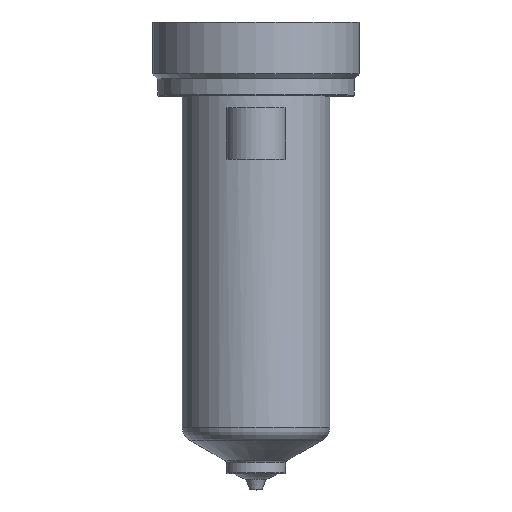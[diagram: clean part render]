
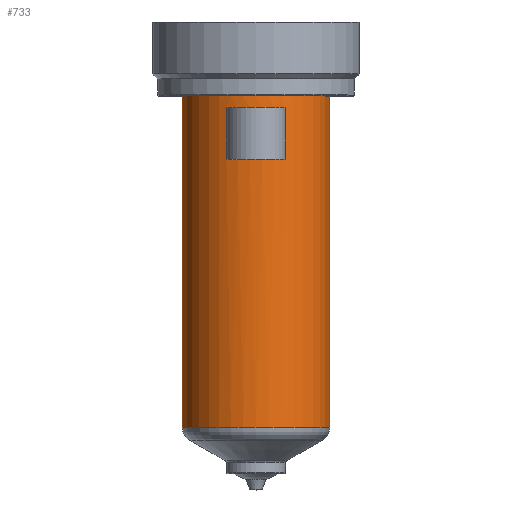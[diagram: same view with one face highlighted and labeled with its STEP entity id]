
A CAD part, top view. The second image highlights one B-rep face of the part: STEP entity #733.
In plain terms, the highlighted cylindrical face has radius 15 mm (diameter 30 mm), a partial arc.
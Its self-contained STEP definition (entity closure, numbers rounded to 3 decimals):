
#161=DIRECTION('',(0.,-1.,0.));
#162=VECTOR('',#161,67.283);
#163=CARTESIAN_POINT('',(15.,0.,0.));
#164=LINE('',#163,#162);
#165=CARTESIAN_POINT('',(0.,-67.283,0.));
#166=DIRECTION('',(0.,1.,0.));
#167=DIRECTION('',(-1.,0.,0.));
#168=AXIS2_PLACEMENT_3D('',#165,#166,#167);
#170=DIRECTION('',(0.,1.,0.));
#171=VECTOR('',#170,67.283);
#172=CARTESIAN_POINT('',(-15.,-67.283,0.));
#173=LINE('',#172,#171);
#174=CARTESIAN_POINT('',(0.,0.,0.));
#175=DIRECTION('',(0.,1.,0.));
#176=DIRECTION('',(-1.,0.,0.));
#177=AXIS2_PLACEMENT_3D('',#174,#175,#176);
#323=DIRECTION('',(0.,-1.,0.));
#324=VECTOR('',#323,10.5);
#325=CARTESIAN_POINT('',(-6.,-2.5,13.748));
#326=LINE('',#325,#324);
#331=CARTESIAN_POINT('',(0.,-13.,0.));
#332=DIRECTION('',(0.,1.,0.));
#333=DIRECTION('',(-0.4,0.,0.917));
#334=AXIS2_PLACEMENT_3D('',#331,#332,#333);
#366=CARTESIAN_POINT('',(0.,-2.5,0.));
#367=DIRECTION('',(0.,-1.,0.));
#368=DIRECTION('',(0.4,0.,0.917));
#369=AXIS2_PLACEMENT_3D('',#366,#367,#368);
#371=DIRECTION('',(0.,-1.,0.));
#372=VECTOR('',#371,10.5);
#373=CARTESIAN_POINT('',(6.,-2.5,13.748));
#374=LINE('',#373,#372);
#458=CARTESIAN_POINT('',(-15.,0.,0.));
#459=CARTESIAN_POINT('',(15.,0.,0.));
#460=VERTEX_POINT('',#458);
#461=VERTEX_POINT('',#459);
#470=CARTESIAN_POINT('',(6.,-2.5,13.748));
#471=VERTEX_POINT('',#470);
#472=CARTESIAN_POINT('',(-6.,-2.5,13.748));
#473=VERTEX_POINT('',#472);
#482=CARTESIAN_POINT('',(15.,-67.283,0.));
#483=VERTEX_POINT('',#482);
#492=CARTESIAN_POINT('',(-15.,-67.283,0.));
#493=VERTEX_POINT('',#492);
#510=CARTESIAN_POINT('',(-6.,-13.,13.748));
#511=CARTESIAN_POINT('',(6.,-13.,13.748));
#512=VERTEX_POINT('',#510);
#513=VERTEX_POINT('',#511);
#711=CARTESIAN_POINT('',(0.,16.4,0.));
#712=DIRECTION('',(0.,-1.,0.));
#713=DIRECTION('',(-1.,0.,0.));
#714=AXIS2_PLACEMENT_3D('',#711,#712,#713);
#715=CYLINDRICAL_SURFACE('',#714,15.);
#716=ORIENTED_EDGE('',*,*,#705,.T.);
#718=ORIENTED_EDGE('',*,*,#717,.F.);
#719=ORIENTED_EDGE('',*,*,#701,.T.);
#720=ORIENTED_EDGE('',*,*,#691,.T.);
#721=EDGE_LOOP('',(#716,#718,#719,#720));
#722=FACE_OUTER_BOUND('',#721,.F.);
#724=ORIENTED_EDGE('',*,*,#723,.T.);
#726=ORIENTED_EDGE('',*,*,#725,.T.);
#728=ORIENTED_EDGE('',*,*,#727,.F.);
#730=ORIENTED_EDGE('',*,*,#729,.T.);
#731=EDGE_LOOP('',(#724,#726,#728,#730));
#732=FACE_BOUND('',#731,.F.);
#733=ADVANCED_FACE('',(#722,#732),#715,.T.);
#169=CIRCLE('',#168,15.);
#178=CIRCLE('',#177,15.);
#335=CIRCLE('',#334,15.);
#370=CIRCLE('',#369,15.);
#691=EDGE_CURVE('',#460,#461,#178,.T.);
#701=EDGE_CURVE('',#493,#460,#173,.T.);
#705=EDGE_CURVE('',#461,#483,#164,.T.);
#717=EDGE_CURVE('',#493,#483,#169,.T.);
#723=EDGE_CURVE('',#473,#512,#326,.T.);
#725=EDGE_CURVE('',#512,#513,#335,.T.);
#727=EDGE_CURVE('',#471,#513,#374,.T.);
#729=EDGE_CURVE('',#471,#473,#370,.T.);
